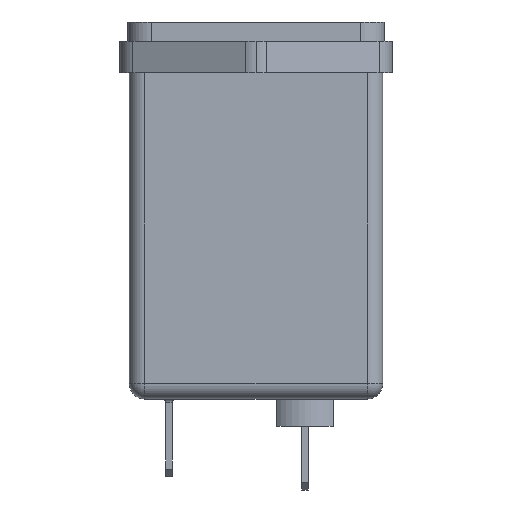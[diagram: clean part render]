
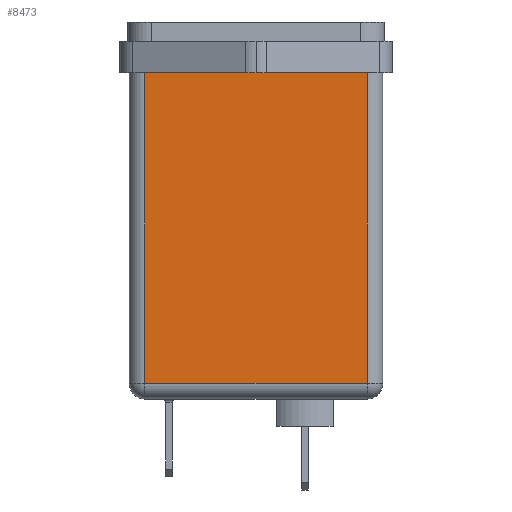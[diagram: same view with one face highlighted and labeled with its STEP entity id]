
A CAD part, left-side view. The second image highlights one B-rep face of the part: STEP entity #8473.
In plain terms, the highlighted planar face has unit normal (-1, 0, 0).
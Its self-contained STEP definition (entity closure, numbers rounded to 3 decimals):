
#47 = ORIENTED_EDGE ( 'NONE', *, *, #11939, .T. ) ;
#94 = LINE ( 'NONE', #12396, #6266 ) ;
#208 = VECTOR ( 'NONE', #1654, 1000. ) ;
#464 = CARTESIAN_POINT ( 'NONE',  ( -14.25, -14.3, 42. ) ) ;
#610 = EDGE_LOOP ( 'NONE', ( #47, #12438, #5294, #15002 ) ) ;
#849 = CARTESIAN_POINT ( 'NONE',  ( -14.25, -16.3, 42. ) ) ;
#852 = VERTEX_POINT ( 'NONE', #6040 ) ;
#1150 = CARTESIAN_POINT ( 'NONE',  ( -14.25, -16.3, 2. ) ) ;
#1654 = DIRECTION ( 'NONE',  ( 0., 0., 1. ) ) ;
#2524 = VECTOR ( 'NONE', #8130, 1000. ) ;
#3011 = VECTOR ( 'NONE', #5450, 1000. ) ;
#3185 = DIRECTION ( 'NONE',  ( 1., 0., 0. ) ) ;
#3622 = EDGE_CURVE ( 'NONE', #7166, #852, #94, .T. ) ;
#5294 = ORIENTED_EDGE ( 'NONE', *, *, #9465, .F. ) ;
#5385 = DIRECTION ( 'NONE',  ( 0., 0., -1. ) ) ;
#5450 = DIRECTION ( 'NONE',  ( 0., -1., 0. ) ) ;
#5588 = LINE ( 'NONE', #1150, #2524 ) ;
#6040 = CARTESIAN_POINT ( 'NONE',  ( -14.25, 14.3, 2. ) ) ;
#6266 = VECTOR ( 'NONE', #5385, 1000. ) ;
#6286 = AXIS2_PLACEMENT_3D ( 'NONE', #10154, #3185, #11347 ) ;
#7166 = VERTEX_POINT ( 'NONE', #12369 ) ;
#7776 = FACE_OUTER_BOUND ( 'NONE', #610, .T. ) ;
#7973 = VERTEX_POINT ( 'NONE', #11471 ) ;
#8130 = DIRECTION ( 'NONE',  ( 0., -1., 0. ) ) ;
#8473 = ADVANCED_FACE ( 'NONE', ( #7776 ), #8930, .F. ) ;
#8732 = VERTEX_POINT ( 'NONE', #12920 ) ;
#8930 = PLANE ( 'NONE',  #6286 ) ;
#9465 = EDGE_CURVE ( 'NONE', #7166, #8732, #9567, .T. ) ;
#9567 = LINE ( 'NONE', #849, #3011 ) ;
#9721 = EDGE_CURVE ( 'NONE', #7973, #8732, #12230, .T. ) ;
#10154 = CARTESIAN_POINT ( 'NONE',  ( -14.25, -16.3, 42. ) ) ;
#11347 = DIRECTION ( 'NONE',  ( 0., 0., -1. ) ) ;
#11471 = CARTESIAN_POINT ( 'NONE',  ( -14.25, -14.3, 2. ) ) ;
#11939 = EDGE_CURVE ( 'NONE', #852, #7973, #5588, .T. ) ;
#12230 = LINE ( 'NONE', #464, #208 ) ;
#12369 = CARTESIAN_POINT ( 'NONE',  ( -14.25, 14.3, 42. ) ) ;
#12396 = CARTESIAN_POINT ( 'NONE',  ( -14.25, 14.3, 42. ) ) ;
#12438 = ORIENTED_EDGE ( 'NONE', *, *, #9721, .T. ) ;
#12920 = CARTESIAN_POINT ( 'NONE',  ( -14.25, -14.3, 42. ) ) ;
#15002 = ORIENTED_EDGE ( 'NONE', *, *, #3622, .T. ) ;
